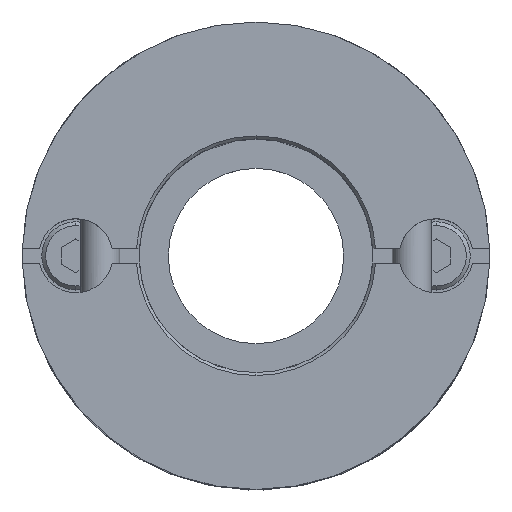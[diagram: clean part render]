
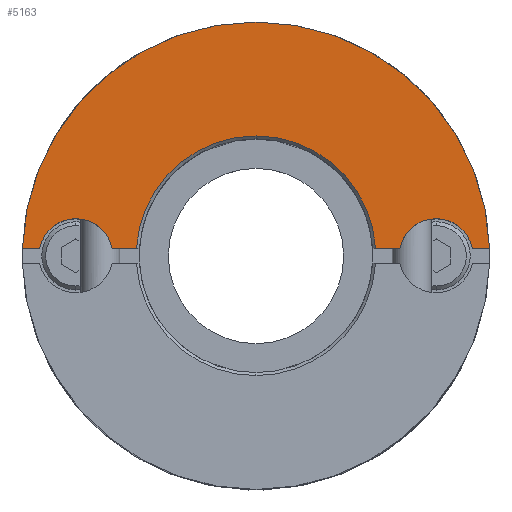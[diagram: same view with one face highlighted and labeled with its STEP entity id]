
A CAD part, top view. The second image highlights one B-rep face of the part: STEP entity #5163.
In plain terms, the highlighted planar face has unit normal (0, 0, 1).
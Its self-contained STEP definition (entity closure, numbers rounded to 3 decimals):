
#1951=CARTESIAN_POINT('',(0.,12.3,19.3));
#1952=VERTEX_POINT('',#1951);
#1961=CARTESIAN_POINT('',(-12.277,0.75,19.3));
#1962=VERTEX_POINT('',#1961);
#1963=CARTESIAN_POINT('',(0.,0.,19.3));
#1964=DIRECTION('',(0.0,0.0,1.0));
#1965=DIRECTION('',(0.0,-1.0,0.0));
#1966=AXIS2_PLACEMENT_3D('',#1963,#1964,#1965);
#1967=CIRCLE('',#1966,12.3);
#1968=EDGE_CURVE('',#1952,#1962,#1967,.T.);
#2140=CARTESIAN_POINT('',(0.,24.,19.3));
#2141=VERTEX_POINT('',#2140);
#2225=CARTESIAN_POINT('',(-23.988,0.75,19.3));
#2226=VERTEX_POINT('',#2225);
#2233=CARTESIAN_POINT('',(0.,0.,19.3));
#2234=DIRECTION('',(0.0,0.0,-1.0));
#2235=DIRECTION('',(0.0,1.0,0.0));
#2236=AXIS2_PLACEMENT_3D('',#2233,#2234,#2235);
#2237=CIRCLE('',#2236,24.0);
#2238=EDGE_CURVE('',#2226,#2141,#2237,.T.);
#2669=CARTESIAN_POINT('',(-18.5,3.8,19.3));
#2670=VERTEX_POINT('',#2669);
#2679=CARTESIAN_POINT('',(-22.225,0.75,19.3));
#2680=VERTEX_POINT('',#2679);
#2681=CARTESIAN_POINT('',(-18.5,0.,19.3));
#2682=DIRECTION('',(0.0,0.0,-1.0));
#2683=DIRECTION('',(0.0,1.0,0.0));
#2684=AXIS2_PLACEMENT_3D('',#2681,#2682,#2683);
#2685=CIRCLE('',#2684,3.8);
#2686=EDGE_CURVE('',#2680,#2670,#2685,.T.);
#2955=CARTESIAN_POINT('',(18.5,3.8,19.3));
#2956=VERTEX_POINT('',#2955);
#2965=CARTESIAN_POINT('',(14.775,0.75,19.3));
#2966=VERTEX_POINT('',#2965);
#2967=CARTESIAN_POINT('',(18.5,0.,19.3));
#2968=DIRECTION('',(0.0,0.0,-1.0));
#2969=DIRECTION('',(0.0,1.0,0.0));
#2970=AXIS2_PLACEMENT_3D('',#2967,#2968,#2969);
#2971=CIRCLE('',#2970,3.8);
#2972=EDGE_CURVE('',#2966,#2956,#2971,.T.);
#4022=CARTESIAN_POINT('',(22.225,0.75,19.3));
#4023=VERTEX_POINT('',#4022);
#4030=CARTESIAN_POINT('',(18.5,0.,19.3));
#4031=DIRECTION('',(0.0,0.0,-1.0));
#4032=DIRECTION('',(0.0,1.0,0.0));
#4033=AXIS2_PLACEMENT_3D('',#4030,#4031,#4032);
#4034=CIRCLE('',#4033,3.8);
#4035=EDGE_CURVE('',#2956,#4023,#4034,.T.);
#4290=CARTESIAN_POINT('',(-14.775,0.75,19.3));
#4291=VERTEX_POINT('',#4290);
#4298=CARTESIAN_POINT('',(-18.5,0.,19.3));
#4299=DIRECTION('',(0.0,0.0,-1.0));
#4300=DIRECTION('',(0.0,1.0,0.0));
#4301=AXIS2_PLACEMENT_3D('',#4298,#4299,#4300);
#4302=CIRCLE('',#4301,3.8);
#4303=EDGE_CURVE('',#2670,#4291,#4302,.T.);
#4400=CARTESIAN_POINT('',(-14.775,0.75,19.3));
#4401=DIRECTION('',(1.0,0.0,0.0));
#4402=VECTOR('',#4401,2.498);
#4403=LINE('',#4400,#4402);
#4404=EDGE_CURVE('',#4291,#1962,#4403,.T.);
#4467=CARTESIAN_POINT('',(12.277,0.75,19.3));
#4468=VERTEX_POINT('',#4467);
#4469=CARTESIAN_POINT('',(12.277,0.75,19.3));
#4470=DIRECTION('',(1.0,0.0,0.0));
#4471=VECTOR('',#4470,2.498);
#4472=LINE('',#4469,#4471);
#4473=EDGE_CURVE('',#4468,#2966,#4472,.T.);
#5042=CARTESIAN_POINT('',(23.988,0.75,19.3));
#5043=VERTEX_POINT('',#5042);
#5050=CARTESIAN_POINT('',(22.225,0.75,19.3));
#5051=DIRECTION('',(1.0,0.0,0.0));
#5052=VECTOR('',#5051,1.763);
#5053=LINE('',#5050,#5052);
#5054=EDGE_CURVE('',#4023,#5043,#5053,.T.);
#5127=CARTESIAN_POINT('',(0.,2.182,19.3));
#5128=DIRECTION('',(0.0,0.0,1.0));
#5129=DIRECTION('',(0.0,1.0,0.0));
#5130=AXIS2_PLACEMENT_3D('',#5127,#5128,#5129);
#5131=PLANE('',#5130);
#5132=ORIENTED_EDGE('',*,*,#2972,.T.);
#5133=ORIENTED_EDGE('',*,*,#4035,.T.);
#5134=ORIENTED_EDGE('',*,*,#5054,.T.);
#5135=CARTESIAN_POINT('',(0.,0.,19.3));
#5136=DIRECTION('',(0.0,0.0,-1.0));
#5137=DIRECTION('',(0.0,1.0,0.0));
#5138=AXIS2_PLACEMENT_3D('',#5135,#5136,#5137);
#5139=CIRCLE('',#5138,24.0);
#5140=EDGE_CURVE('',#2141,#5043,#5139,.T.);
#5141=ORIENTED_EDGE('',*,*,#5140,.F.);
#5142=ORIENTED_EDGE('',*,*,#2238,.F.);
#5143=CARTESIAN_POINT('',(-23.988,0.75,19.3));
#5144=DIRECTION('',(1.0,0.0,0.0));
#5145=VECTOR('',#5144,1.763);
#5146=LINE('',#5143,#5145);
#5147=EDGE_CURVE('',#2226,#2680,#5146,.T.);
#5148=ORIENTED_EDGE('',*,*,#5147,.T.);
#5149=ORIENTED_EDGE('',*,*,#2686,.T.);
#5150=ORIENTED_EDGE('',*,*,#4303,.T.);
#5151=ORIENTED_EDGE('',*,*,#4404,.T.);
#5152=ORIENTED_EDGE('',*,*,#1968,.F.);
#5153=CARTESIAN_POINT('',(0.,0.,19.3));
#5154=DIRECTION('',(0.0,0.0,1.0));
#5155=DIRECTION('',(0.0,-1.0,0.0));
#5156=AXIS2_PLACEMENT_3D('',#5153,#5154,#5155);
#5157=CIRCLE('',#5156,12.3);
#5158=EDGE_CURVE('',#4468,#1952,#5157,.T.);
#5159=ORIENTED_EDGE('',*,*,#5158,.F.);
#5160=ORIENTED_EDGE('',*,*,#4473,.T.);
#5161=EDGE_LOOP('',(#5132,#5133,#5134,#5141,#5142,#5148,#5149,#5150,#5151,#5152,#5159,#5160));
#5162=FACE_OUTER_BOUND('',#5161,.T.);
#5163=ADVANCED_FACE('',(#5162),#5131,.T.);
